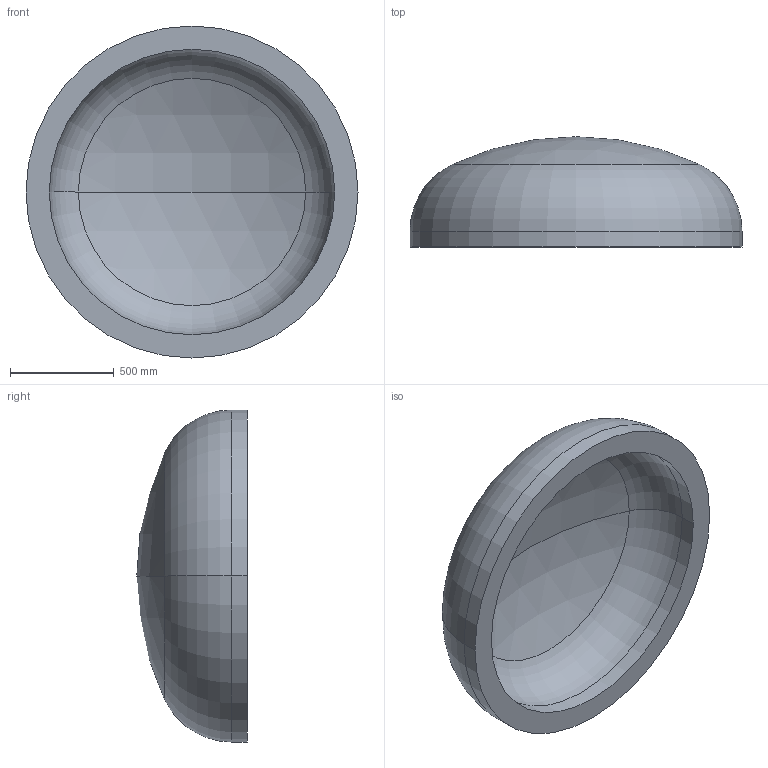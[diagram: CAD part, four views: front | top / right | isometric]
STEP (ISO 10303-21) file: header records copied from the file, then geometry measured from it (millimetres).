
FILE_DESCRIPTION (( 'STEP AP203' ), '1' );
FILE_NAME ('DIN 28013 Korbbogenform_-_Boden DIN 28013 - 1600 x 75 - I - s=112.step', '2016-07-01T11:32:01', ( '' ), ( '' ), 'SwSTEP 2.0', 'SolidWorks 2013', '' );
FILE_SCHEMA (( 'CONFIG_CONTROL_DESIGN' ));
Length unit declared in the file: millimetre
Products named in the file (1): DIN 28013 Korbbogenform_-_Boden DIN 28013 - 1600 x 75 - I - s=112
Bounding box: 1600 x 531.6 x 1600 mm (x, y, z)
Volume: 324389501.3 mm3; surface area: 6342505.7 mm2
Topology: 1 solids, 1 shells, 13 faces, 24 edges, 14 vertices
Faces by surface type: torus 4, cylinder 4, sphere 4, plane 1
Entity records: 407 total; most frequent: DIRECTION 72, CARTESIAN_POINT 52, ORIENTED_EDGE 48, AXIS2_PLACEMENT_3D 34, EDGE_CURVE 24, CIRCLE 20, VERTEX_POINT 14, EDGE_LOOP 14
